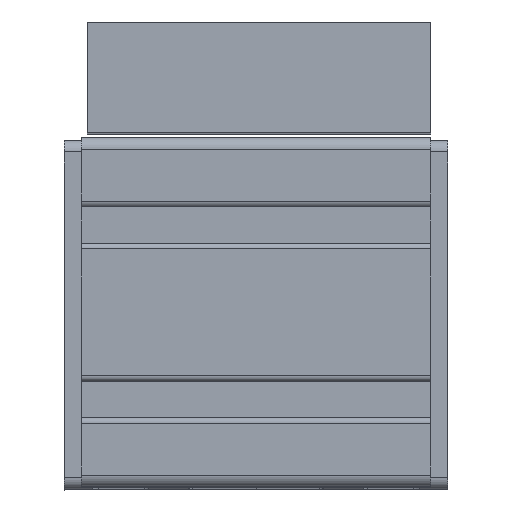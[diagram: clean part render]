
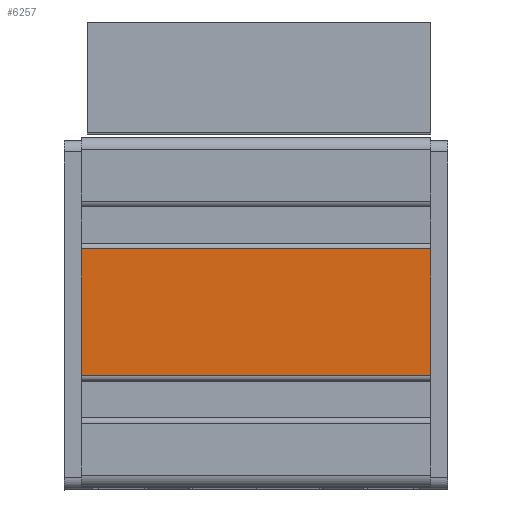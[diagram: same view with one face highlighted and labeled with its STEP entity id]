
A CAD part, top view. The second image highlights one B-rep face of the part: STEP entity #6257.
In plain terms, the highlighted planar face has unit normal (0, 0, 1) as drawn and (1, 0, 0) by its records, which use the part's own axes.
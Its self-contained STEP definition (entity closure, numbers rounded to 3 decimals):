
#6199=CARTESIAN_POINT('',(30.,10.9,60.0));
#6200=VERTEX_POINT('',#6199);
#6208=CARTESIAN_POINT('',(30.,10.9,0.0));
#6209=VERTEX_POINT('',#6208);
#6210=CARTESIAN_POINT('',(30.,10.9,0.0));
#6211=DIRECTION('',(0.0,0.0,1.0));
#6212=VECTOR('',#6211,60.0);
#6213=LINE('',#6210,#6212);
#6214=EDGE_CURVE('',#6209,#6200,#6213,.T.);
#6227=CARTESIAN_POINT('',(30.,10.9,0.0));
#6228=DIRECTION('',(1.0,0.0,0.0));
#6229=DIRECTION('',(0.0,0.0,-1.0));
#6230=AXIS2_PLACEMENT_3D('',#6227,#6228,#6229);
#6231=PLANE('',#6230);
#6232=CARTESIAN_POINT('',(30.,-10.9,60.0));
#6233=VERTEX_POINT('',#6232);
#6234=CARTESIAN_POINT('',(30.,10.9,60.0));
#6235=DIRECTION('',(0.0,-1.0,0.0));
#6236=VECTOR('',#6235,21.8);
#6237=LINE('',#6234,#6236);
#6238=EDGE_CURVE('',#6200,#6233,#6237,.T.);
#6239=ORIENTED_EDGE('',*,*,#6238,.T.);
#6240=CARTESIAN_POINT('',(30.,-10.9,0.0));
#6241=VERTEX_POINT('',#6240);
#6242=CARTESIAN_POINT('',(30.,-10.9,0.0));
#6243=DIRECTION('',(0.0,0.0,1.0));
#6244=VECTOR('',#6243,60.0);
#6245=LINE('',#6242,#6244);
#6246=EDGE_CURVE('',#6241,#6233,#6245,.T.);
#6247=ORIENTED_EDGE('',*,*,#6246,.F.);
#6248=CARTESIAN_POINT('',(30.,-10.9,0.0));
#6249=DIRECTION('',(0.0,1.0,0.0));
#6250=VECTOR('',#6249,21.8);
#6251=LINE('',#6248,#6250);
#6252=EDGE_CURVE('',#6241,#6209,#6251,.T.);
#6253=ORIENTED_EDGE('',*,*,#6252,.T.);
#6254=ORIENTED_EDGE('',*,*,#6214,.T.);
#6255=EDGE_LOOP('',(#6239,#6247,#6253,#6254));
#6256=FACE_OUTER_BOUND('',#6255,.T.);
#6257=ADVANCED_FACE('',(#6256),#6231,.T.);
